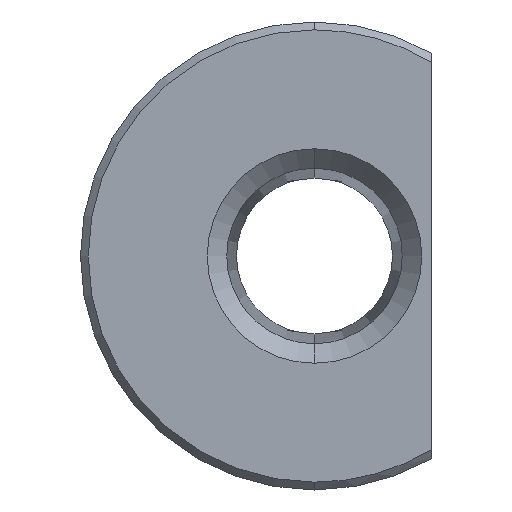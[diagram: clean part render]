
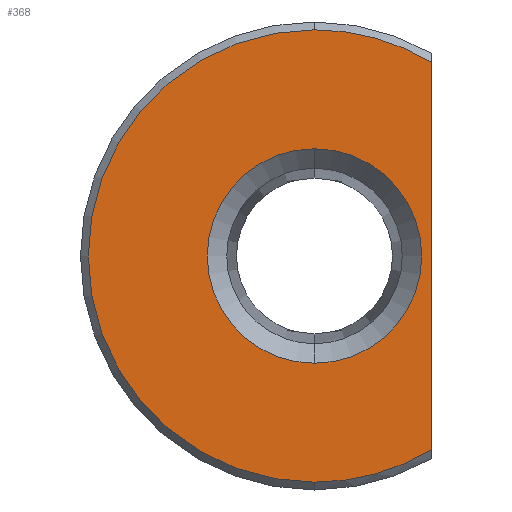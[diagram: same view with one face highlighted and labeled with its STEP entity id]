
A CAD part, front view. The second image highlights one B-rep face of the part: STEP entity #368.
In plain terms, the highlighted planar face has unit normal (0, -1, 0).
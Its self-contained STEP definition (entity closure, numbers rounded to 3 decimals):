
#3 = EDGE_CURVE ( 'NONE', #286, #223, #103, .T. ) ;
#28 = CARTESIAN_POINT ( 'NONE',  ( 3., 0., -4.964 ) ) ;
#48 = DIRECTION ( 'NONE',  ( 0., 1., 0. ) ) ;
#67 = CARTESIAN_POINT ( 'NONE',  ( 0., 0., 0. ) ) ;
#69 = VERTEX_POINT ( 'NONE', #241 ) ;
#94 = CARTESIAN_POINT ( 'NONE',  ( 0., 0., 0. ) ) ;
#102 = AXIS2_PLACEMENT_3D ( 'NONE', #94, #387, #264 ) ;
#103 = CIRCLE ( 'NONE', #728, 2.75 ) ;
#107 = VERTEX_POINT ( 'NONE', #712 ) ;
#113 = CIRCLE ( 'NONE', #708, 5.8 ) ;
#114 = CARTESIAN_POINT ( 'NONE',  ( 0., 0., 0. ) ) ;
#119 = ORIENTED_EDGE ( 'NONE', *, *, #3, .T. ) ;
#156 = CARTESIAN_POINT ( 'NONE',  ( -6., 0., 0. ) ) ;
#183 = DIRECTION ( 'NONE',  ( 0., -1., 0. ) ) ;
#201 = VECTOR ( 'NONE', #383, 1000. ) ;
#207 = EDGE_CURVE ( 'NONE', #545, #476, #587, .T. ) ;
#218 = FACE_BOUND ( 'NONE', #339, .T. ) ;
#223 = VERTEX_POINT ( 'NONE', #733 ) ;
#241 = CARTESIAN_POINT ( 'NONE',  ( 3., 0., 4.964 ) ) ;
#264 = DIRECTION ( 'NONE',  ( 0., 0., -1. ) ) ;
#273 = CARTESIAN_POINT ( 'NONE',  ( 0., 0., 0. ) ) ;
#286 = VERTEX_POINT ( 'NONE', #802 ) ;
#290 = ORIENTED_EDGE ( 'NONE', *, *, #207, .T. ) ;
#305 = CARTESIAN_POINT ( 'NONE',  ( 3., 0., 5.196 ) ) ;
#320 = DIRECTION ( 'NONE',  ( 0., -1., 0. ) ) ;
#330 = CARTESIAN_POINT ( 'NONE',  ( 0., 0., 0. ) ) ;
#339 = EDGE_LOOP ( 'NONE', ( #119, #488 ) ) ;
#344 = EDGE_CURVE ( 'NONE', #107, #545, #113, .T. ) ;
#348 = AXIS2_PLACEMENT_3D ( 'NONE', #273, #732, #668 ) ;
#353 = EDGE_LOOP ( 'NONE', ( #544, #553, #751, #290 ) ) ;
#368 = ADVANCED_FACE ( 'NONE', ( #218, #730 ), #584, .T. ) ;
#373 = CIRCLE ( 'NONE', #102, 2.75 ) ;
#383 = DIRECTION ( 'NONE',  ( 0., 0., -1. ) ) ;
#387 = DIRECTION ( 'NONE',  ( 0., 1., 0. ) ) ;
#434 = EDGE_CURVE ( 'NONE', #223, #286, #373, .T. ) ;
#436 = LINE ( 'NONE', #305, #201 ) ;
#476 = VERTEX_POINT ( 'NONE', #28 ) ;
#488 = ORIENTED_EDGE ( 'NONE', *, *, #434, .T. ) ;
#500 = CIRCLE ( 'NONE', #750, 5.8 ) ;
#544 = ORIENTED_EDGE ( 'NONE', *, *, #580, .F. ) ;
#545 = VERTEX_POINT ( 'NONE', #706 ) ;
#553 = ORIENTED_EDGE ( 'NONE', *, *, #779, .T. ) ;
#563 = DIRECTION ( 'NONE',  ( 0., 0., -1. ) ) ;
#570 = DIRECTION ( 'NONE',  ( 0., 0., -1. ) ) ;
#580 = EDGE_CURVE ( 'NONE', #69, #476, #436, .T. ) ;
#584 = PLANE ( 'NONE',  #627 ) ;
#587 = CIRCLE ( 'NONE', #348, 5.8 ) ;
#594 = DIRECTION ( 'NONE',  ( 0., -1., 0. ) ) ;
#627 = AXIS2_PLACEMENT_3D ( 'NONE', #156, #320, #646 ) ;
#646 = DIRECTION ( 'NONE',  ( 0., 0., -1. ) ) ;
#661 = DIRECTION ( 'NONE',  ( 0., 0., -1. ) ) ;
#668 = DIRECTION ( 'NONE',  ( 0., 0., -1. ) ) ;
#706 = CARTESIAN_POINT ( 'NONE',  ( 0., 0., -5.8 ) ) ;
#708 = AXIS2_PLACEMENT_3D ( 'NONE', #330, #594, #661 ) ;
#712 = CARTESIAN_POINT ( 'NONE',  ( 0., 0., 5.8 ) ) ;
#728 = AXIS2_PLACEMENT_3D ( 'NONE', #114, #48, #563 ) ;
#730 = FACE_OUTER_BOUND ( 'NONE', #353, .T. ) ;
#732 = DIRECTION ( 'NONE',  ( 0., -1., 0. ) ) ;
#733 = CARTESIAN_POINT ( 'NONE',  ( 0., 0., 2.75 ) ) ;
#750 = AXIS2_PLACEMENT_3D ( 'NONE', #67, #183, #570 ) ;
#751 = ORIENTED_EDGE ( 'NONE', *, *, #344, .T. ) ;
#779 = EDGE_CURVE ( 'NONE', #69, #107, #500, .T. ) ;
#802 = CARTESIAN_POINT ( 'NONE',  ( 0., 0., -2.75 ) ) ;
